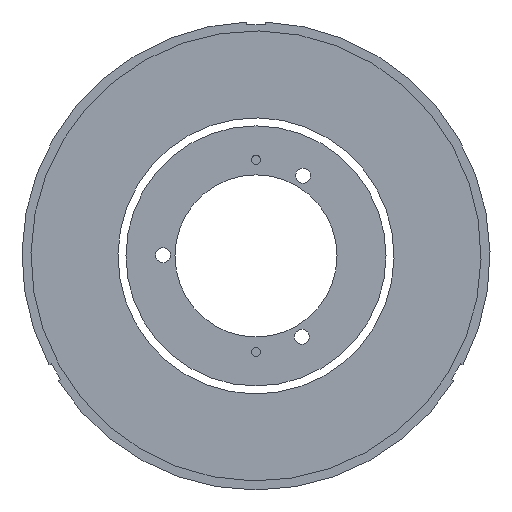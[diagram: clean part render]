
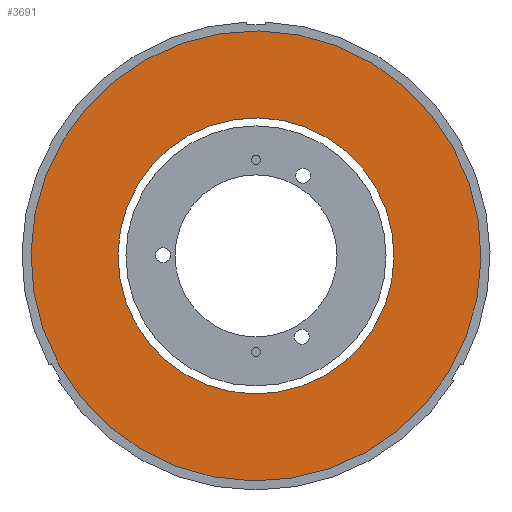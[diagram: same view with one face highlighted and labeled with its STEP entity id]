
A CAD part, front view. The second image highlights one B-rep face of the part: STEP entity #3691.
In plain terms, the highlighted planar face has unit normal (0, -1, 0).
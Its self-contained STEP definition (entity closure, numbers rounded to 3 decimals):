
#88 = FACE_BOUND ( 'NONE', #2989, .T. ) ;
#112 = DIRECTION ( 'NONE',  ( 0., 1., 0. ) ) ;
#157 = ORIENTED_EDGE ( 'NONE', *, *, #532, .F. ) ;
#275 = VERTEX_POINT ( 'NONE', #1981 ) ;
#532 = EDGE_CURVE ( 'NONE', #2429, #275, #1467, .T. ) ;
#593 = DIRECTION ( 'NONE',  ( 0., 1., 0. ) ) ;
#613 = DIRECTION ( 'NONE',  ( -0.19, 0., -0.982 ) ) ;
#730 = AXIS2_PLACEMENT_3D ( 'NONE', #2040, #2390, #1192 ) ;
#783 = VERTEX_POINT ( 'NONE', #2349 ) ;
#843 = CIRCLE ( 'NONE', #904, 23. ) ;
#896 = CARTESIAN_POINT ( 'NONE',  ( 6.019, 13.566, -2.574 ) ) ;
#904 = AXIS2_PLACEMENT_3D ( 'NONE', #1490, #2666, #613 ) ;
#1192 = DIRECTION ( 'NONE',  ( -0.19, 0., -0.982 ) ) ;
#1270 = CARTESIAN_POINT ( 'NONE',  ( 13.159, 13.566, 34.24 ) ) ;
#1275 = DIRECTION ( 'NONE',  ( -0.19, 0., -0.982 ) ) ;
#1315 = ORIENTED_EDGE ( 'NONE', *, *, #2513, .T. ) ;
#1366 = AXIS2_PLACEMENT_3D ( 'NONE', #3791, #3539, #1812 ) ;
#1467 = CIRCLE ( 'NONE', #3631, 37.5 ) ;
#1490 = CARTESIAN_POINT ( 'NONE',  ( 13.159, 13.566, 34.24 ) ) ;
#1605 = CARTESIAN_POINT ( 'NONE',  ( 17.538, 13.566, 56.819 ) ) ;
#1674 = CIRCLE ( 'NONE', #1366, 37.5 ) ;
#1688 = VERTEX_POINT ( 'NONE', #1605 ) ;
#1812 = DIRECTION ( 'NONE',  ( -0.19, 0., -0.982 ) ) ;
#1981 = CARTESIAN_POINT ( 'NONE',  ( 20.299, 13.566, 71.054 ) ) ;
#2040 = CARTESIAN_POINT ( 'NONE',  ( 13.159, 13.566, 34.24 ) ) ;
#2137 = FACE_OUTER_BOUND ( 'NONE', #3021, .T. ) ;
#2147 = ORIENTED_EDGE ( 'NONE', *, *, #2253, .F. ) ;
#2253 = EDGE_CURVE ( 'NONE', #275, #2429, #1674, .T. ) ;
#2314 = ORIENTED_EDGE ( 'NONE', *, *, #2343, .T. ) ;
#2343 = EDGE_CURVE ( 'NONE', #1688, #783, #2812, .T. ) ;
#2349 = CARTESIAN_POINT ( 'NONE',  ( 8.78, 13.566, 11.66 ) ) ;
#2390 = DIRECTION ( 'NONE',  ( 0., 1., 0. ) ) ;
#2407 = PLANE ( 'NONE',  #3159 ) ;
#2429 = VERTEX_POINT ( 'NONE', #896 ) ;
#2513 = EDGE_CURVE ( 'NONE', #783, #1688, #843, .T. ) ;
#2666 = DIRECTION ( 'NONE',  ( 0., 1., 0. ) ) ;
#2812 = CIRCLE ( 'NONE', #730, 23. ) ;
#2989 = EDGE_LOOP ( 'NONE', ( #2314, #1315 ) ) ;
#3021 = EDGE_LOOP ( 'NONE', ( #2147, #157 ) ) ;
#3025 = CARTESIAN_POINT ( 'NONE',  ( 13.159, 13.566, 34.24 ) ) ;
#3159 = AXIS2_PLACEMENT_3D ( 'NONE', #1270, #593, #3576 ) ;
#3539 = DIRECTION ( 'NONE',  ( 0., 1., 0. ) ) ;
#3576 = DIRECTION ( 'NONE',  ( -0.982, 0., 0.19 ) ) ;
#3631 = AXIS2_PLACEMENT_3D ( 'NONE', #3025, #112, #1275 ) ;
#3691 = ADVANCED_FACE ( 'NONE', ( #88, #2137 ), #2407, .F. ) ;
#3791 = CARTESIAN_POINT ( 'NONE',  ( 13.159, 13.566, 34.24 ) ) ;
